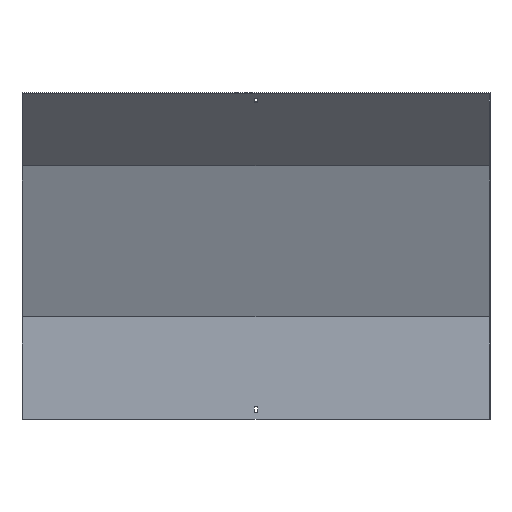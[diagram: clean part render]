
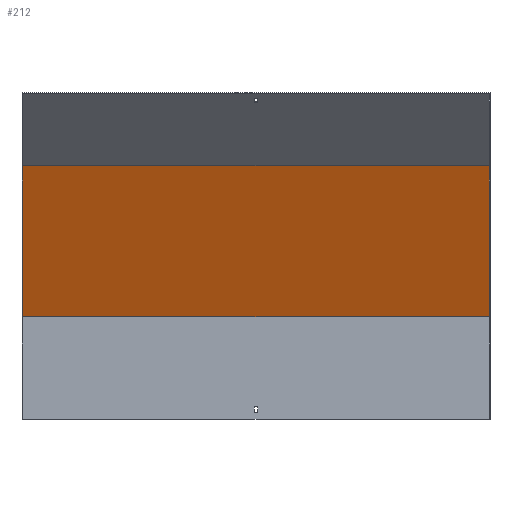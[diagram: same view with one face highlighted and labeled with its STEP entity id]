
A CAD part, front view. The second image highlights one B-rep face of the part: STEP entity #212.
In plain terms, the highlighted planar face has unit normal (0, -0.924, -0.383).
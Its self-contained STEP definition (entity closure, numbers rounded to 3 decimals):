
#7 = LINE ( 'NONE', #405, #698 ) ;
#8 = VECTOR ( 'NONE', #168, 1000. ) ;
#11 = VECTOR ( 'NONE', #786, 1000. ) ;
#33 = LINE ( 'NONE', #306, #8 ) ;
#39 = CARTESIAN_POINT ( 'NONE',  ( 400., 18.5, 175.68 ) ) ;
#57 = EDGE_CURVE ( 'NONE', #641, #669, #7, .T. ) ;
#104 = CARTESIAN_POINT ( 'NONE',  ( 400., -88.789, 434.699 ) ) ;
#111 = DIRECTION ( 'NONE',  ( 0., -0.924, -0.383 ) ) ;
#127 = CARTESIAN_POINT ( 'NONE',  ( -400., 77.903, 32.268 ) ) ;
#168 = DIRECTION ( 'NONE',  ( -1., 0., 0. ) ) ;
#178 = ORIENTED_EDGE ( 'NONE', *, *, #689, .T. ) ;
#210 = CARTESIAN_POINT ( 'NONE',  ( -400., -88.789, 434.699 ) ) ;
#212 = ADVANCED_FACE ( 'NONE', ( #560 ), #240, .T. ) ;
#215 = EDGE_CURVE ( 'NONE', #641, #296, #33, .T. ) ;
#240 = PLANE ( 'NONE',  #582 ) ;
#255 = ORIENTED_EDGE ( 'NONE', *, *, #57, .T. ) ;
#257 = ORIENTED_EDGE ( 'NONE', *, *, #215, .F. ) ;
#266 = LINE ( 'NONE', #127, #11 ) ;
#296 = VERTEX_POINT ( 'NONE', #498 ) ;
#304 = EDGE_CURVE ( 'NONE', #296, #510, #266, .T. ) ;
#306 = CARTESIAN_POINT ( 'NONE',  ( 401.5, 18.5, 175.68 ) ) ;
#374 = ORIENTED_EDGE ( 'NONE', *, *, #304, .F. ) ;
#382 = VECTOR ( 'NONE', #559, 1000. ) ;
#405 = CARTESIAN_POINT ( 'NONE',  ( 400., 77.903, 32.268 ) ) ;
#418 = DIRECTION ( 'NONE',  ( 0., -0.383, 0.924 ) ) ;
#498 = CARTESIAN_POINT ( 'NONE',  ( -400., 18.5, 175.68 ) ) ;
#510 = VERTEX_POINT ( 'NONE', #210 ) ;
#559 = DIRECTION ( 'NONE',  ( -1., 0., 0. ) ) ;
#560 = FACE_OUTER_BOUND ( 'NONE', #648, .T. ) ;
#574 = DIRECTION ( 'NONE',  ( 0., 0.383, -0.924 ) ) ;
#582 = AXIS2_PLACEMENT_3D ( 'NONE', #694, #111, #574 ) ;
#641 = VERTEX_POINT ( 'NONE', #39 ) ;
#648 = EDGE_LOOP ( 'NONE', ( #374, #257, #255, #178 ) ) ;
#669 = VERTEX_POINT ( 'NONE', #104 ) ;
#689 = EDGE_CURVE ( 'NONE', #669, #510, #697, .T. ) ;
#694 = CARTESIAN_POINT ( 'NONE',  ( 401.5, 17.092, 179.08 ) ) ;
#697 = LINE ( 'NONE', #747, #382 ) ;
#698 = VECTOR ( 'NONE', #418, 1000. ) ;
#747 = CARTESIAN_POINT ( 'NONE',  ( 401.5, -88.789, 434.699 ) ) ;
#786 = DIRECTION ( 'NONE',  ( 0., -0.383, 0.924 ) ) ;
